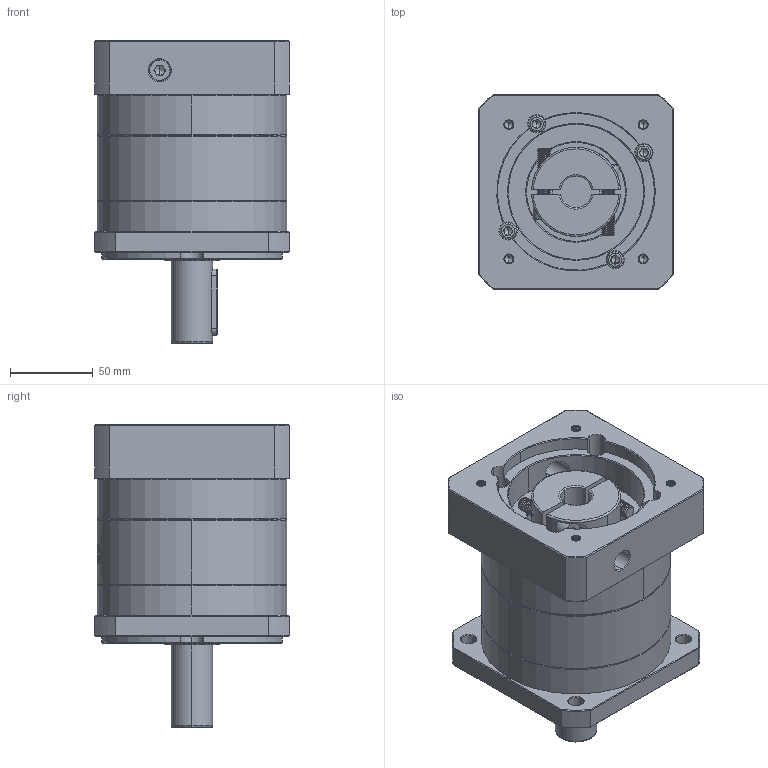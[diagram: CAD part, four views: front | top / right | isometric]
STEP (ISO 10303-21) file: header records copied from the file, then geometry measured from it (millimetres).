
FILE_DESCRIPTION (( 'STEP AP214' ), '1' );
FILE_NAME ('ZF120A-D25-L1-P2-19-95-115-M6.step', '2023-08-27T04:38:09', ( '' ), ( '' ), 'SwSTEP 2.0', 'SolidWorks 2016', '' );
FILE_SCHEMA (( 'AUTOMOTIVE_DESIGN' ));
Length unit declared in the file: millimetre
Products named in the file (1): ZF120A-D25-L1-P2-19-95-115-M6
Bounding box: 118 x 118 x 183.5 mm (x, y, z)
Volume: 1364218.1 mm3; surface area: 157833 mm2
Topology: 6 solids, 6 shells, 2235 faces, 5954 edges, 3820 vertices
Faces by surface type: plane 1034, bspline 439, cylinder 421, cone 341
Entity records: 122815 total; most frequent: CARTESIAN_POINT 48026, ORIENTED_EDGE 11848, DIRECTION 8602, EDGE_CURVE 5924, VERTEX_POINT 3820, LINE 3100, VECTOR 3100, AXIS2_PLACEMENT_3D 2751
